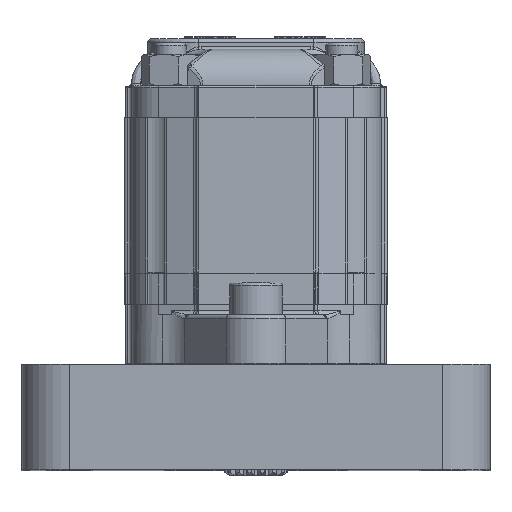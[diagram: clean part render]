
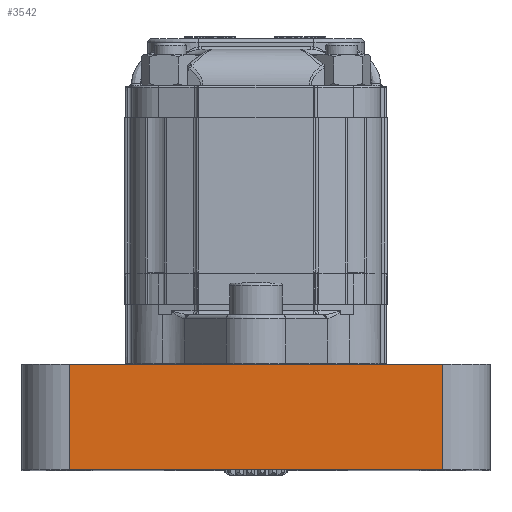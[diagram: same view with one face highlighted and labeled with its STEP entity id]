
A CAD part, top view. The second image highlights one B-rep face of the part: STEP entity #3542.
In plain terms, the highlighted planar face has unit normal (0, 0, 1).
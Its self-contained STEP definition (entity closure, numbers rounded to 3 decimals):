
#3542 = ADVANCED_FACE( '', ( #7507 ), #7508, .T. );
#7507 = FACE_OUTER_BOUND( '', #13823, .T. );
#7508 = PLANE( '', #13824 );
#13823 = EDGE_LOOP( '', ( #24408, #24409, #24410, #24411 ) );
#13824 = AXIS2_PLACEMENT_3D( '', #24412, #24413, #24414 );
#24408 = ORIENTED_EDGE( '', *, *, #27654, .F. );
#24409 = ORIENTED_EDGE( '', *, *, #27894, .F. );
#24410 = ORIENTED_EDGE( '', *, *, #31029, .T. );
#24411 = ORIENTED_EDGE( '', *, *, #31736, .T. );
#24412 = CARTESIAN_POINT( '', ( -35.5, -11.5, 48.65 ) );
#24413 = DIRECTION( '', ( 0., 0., 1. ) );
#24414 = DIRECTION( '', ( 1., 0., 0. ) );
#27654 = EDGE_CURVE( '', #32743, #32714, #32745, .T. );
#27894 = EDGE_CURVE( '', #33162, #32743, #33164, .T. );
#31029 = EDGE_CURVE( '', #33162, #37862, #37865, .T. );
#31736 = EDGE_CURVE( '', #37862, #32714, #38701, .T. );
#32714 = VERTEX_POINT( '', #40130 );
#32743 = VERTEX_POINT( '', #40170 );
#32745 = LINE( '', #40172, #40173 );
#33162 = VERTEX_POINT( '', #40966 );
#33164 = LINE( '', #40968, #40969 );
#37862 = VERTEX_POINT( '', #50283 );
#37865 = LINE( '', #50286, #50287 );
#38701 = LINE( '', #52047, #52048 );
#40130 = CARTESIAN_POINT( '', ( -35.5, -31.5, 48.65 ) );
#40170 = CARTESIAN_POINT( '', ( 35.5, -31.5, 48.65 ) );
#40172 = CARTESIAN_POINT( '', ( -35.5, -31.5, 48.65 ) );
#40173 = VECTOR( '', #53242, 1000. );
#40966 = CARTESIAN_POINT( '', ( 35.5, -11.5, 48.65 ) );
#40968 = CARTESIAN_POINT( '', ( 35.5, -11.5, 48.65 ) );
#40969 = VECTOR( '', #53535, 1000. );
#50283 = CARTESIAN_POINT( '', ( -35.5, -11.5, 48.65 ) );
#50286 = CARTESIAN_POINT( '', ( -35.5, -11.5, 48.65 ) );
#50287 = VECTOR( '', #57009, 1000. );
#52047 = CARTESIAN_POINT( '', ( -35.5, -11.5, 48.65 ) );
#52048 = VECTOR( '', #57714, 1000. );
#53242 = DIRECTION( '', ( -1., 0., 0. ) );
#53535 = DIRECTION( '', ( 0., -1., 0. ) );
#57009 = DIRECTION( '', ( -1., 0., 0. ) );
#57714 = DIRECTION( '', ( 0., -1., 0. ) );
